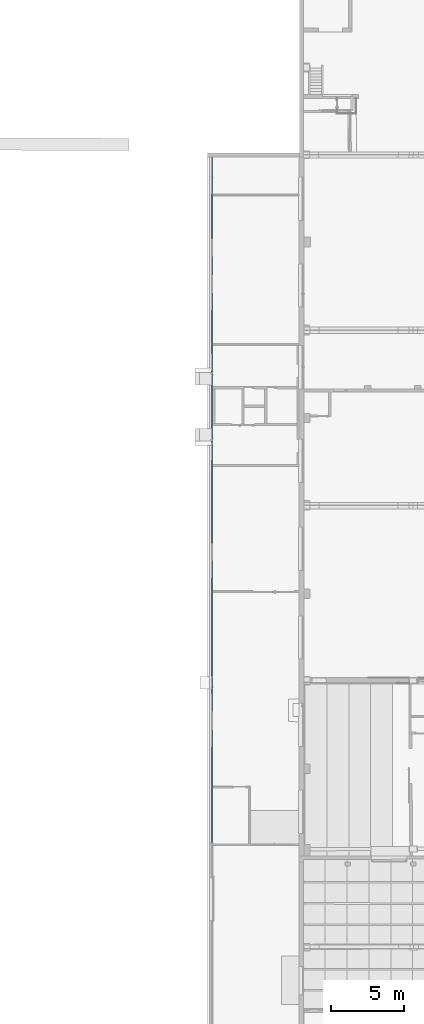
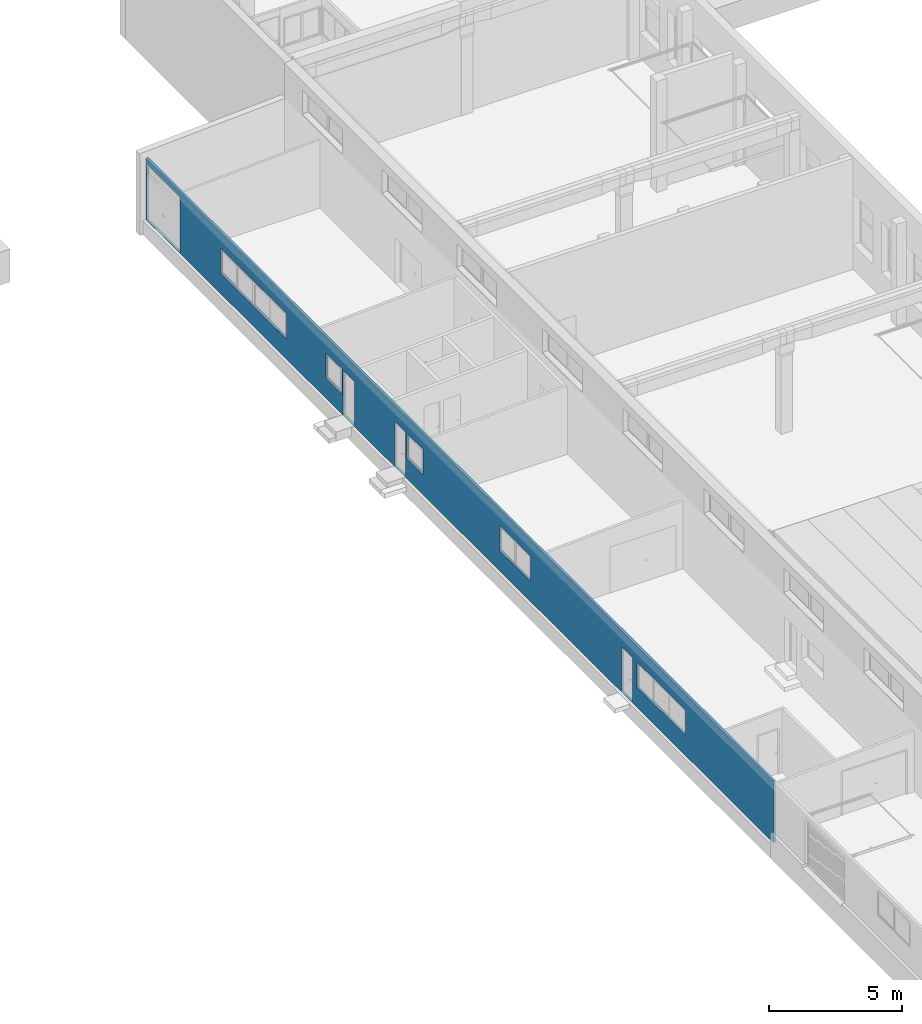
# One storey, part 101 of 301: 1 wall, 9 openings.
"""IFC2X3 building model written with IfcOpenShell, lengths in millimetres."""

from ifc_helpers import new_model, entity, si_unit, converted_unit, derived_unit, money_unit, direction, frame, origin_with_axes, place, context, subcontext, project, spatial, faceted_brep, material, type_object, element, save


model = new_model("IFC2X3")

# Units and contexts
model_context = context("Model", 3, precision=0.01, world=origin_with_axes(), true_north=direction((0.0, 1.0)))
body_context = subcontext(model_context, "Body", "Model", "MODEL_VIEW")
ifc_project = project(units=[si_unit("LENGTHUNIT", "METRE", prefix="MILLI"), si_unit("AREAUNIT", "SQUARE_METRE"), si_unit("VOLUMEUNIT", "CUBIC_METRE"), converted_unit("PLANEANGLEUNIT", "DEGREE", entity("IfcPlaneAngleMeasure", 0.0174532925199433), si_unit("PLANEANGLEUNIT", "RADIAN"), dimensions=[0, 0, 0, 0, 0, 0, 0]), money_unit("EUR"), converted_unit("TIMEUNIT", "Year", entity("IfcTimeMeasure", 31557600.0), si_unit("TIMEUNIT", "SECOND"), dimensions=[0, 0, 1, 0, 0, 0, 0]), si_unit("MASSUNIT", "GRAM", prefix="KILO"), si_unit("THERMODYNAMICTEMPERATUREUNIT", "DEGREE_CELSIUS"), si_unit("LUMINOUSINTENSITYUNIT", "LUMEN"), si_unit("ENERGYUNIT", "JOULE", prefix="MEGA"), derived_unit("THERMALCONDUCTANCEUNIT", [(si_unit("POWERUNIT", "WATT"), 1), (si_unit("LENGTHUNIT", "METRE"), -1), (si_unit("THERMODYNAMICTEMPERATUREUNIT", "KELVIN"), -1)]), derived_unit("SPECIFICHEATCAPACITYUNIT", [(si_unit("ENERGYUNIT", "JOULE"), 1), (si_unit("MASSUNIT", "GRAM", prefix="KILO"), -1), (si_unit("THERMODYNAMICTEMPERATUREUNIT", "KELVIN"), -1)]), derived_unit("MASSDENSITYUNIT", [(si_unit("MASSUNIT", "GRAM", prefix="KILO"), 1), (si_unit("VOLUMEUNIT", "CUBIC_METRE"), -1)])], contexts=[model_context])

# Site, building, storey
site_placement = place(None, frame((0.0, 0.0, 8650.0), z_axis=(0.0, 0.0, 1.0), x_axis=(1.0, 0.0, 0.0)))
site = spatial("IfcSite", under=ifc_project, at=site_placement, Name="43301:001:0844", CompositionType="ELEMENT")
building_placement = place(site_placement, origin_with_axes())
building = spatial("IfcBuilding", under=site, at=building_placement, Name="Kuressaare Ametikooli tuulikute mehaanikute õppekorpus", CompositionType="ELEMENT")
storey_placement = place(building_placement, origin_with_axes())
storey = spatial("IfcBuildingStorey", under=building, at=storey_placement, Name="1.korrus", CompositionType="ELEMENT", Elevation=0.0)

# Wall, openings
ifc_material = material(Name="GENEERILINE - KONSTRUKTRIOON")
wall_type = type_object("IfcWallType", Name="GENEERILINE - KONSTRUKTRIOON 100", PredefinedType="NOTDEFINED")
wall_placement = place(storey_placement, frame((81892.20130850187, 110588.890590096, -350.0), z_axis=(0.0, 0.0, 1.0), x_axis=(-7.655742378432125e-06, -0.9999999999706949, 0.0)))
wall = element("IfcWall", 1, at=wall_placement, inside=storey, type_object=wall_type, material=ifc_material, Name="VS-XX", context=body_context, shape_type="Brep", body=[
    faceted_brep([(269.999999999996, 0.0, 2816.26484691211), (269.999999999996, 99.99999999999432, 2821.680593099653), (269.999999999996, 99.99999999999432, 0.0), (269.999999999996, 0.0, 0.0), (47352.6273163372, 99.9999999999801, 2809.655716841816), (47352.6273163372, 0.0, 2804.239970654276), (47352.6273163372, 99.9999999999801, 0.0), (5854.778075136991, 99.9999999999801, 924.9999999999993), (10814.77807513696, 100.0000000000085, 924.9999999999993), (10814.77807513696, 100.0000000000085, 2075.0), (5854.778075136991, 99.9999999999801, 2075.0), (13763.52836301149, 99.99999999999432, 2075.0), (13763.52836301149, 99.99999999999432, 924.9999999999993), (14963.52836301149, 100.0000000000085, 924.9999999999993), (14963.52836301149, 100.0000000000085, 2075.0), (21051.12921387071, 99.99999999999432, 2075.0), (19851.12921387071, 99.99999999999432, 2075.0), (19851.12921387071, 99.99999999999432, 924.9999999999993), (21051.12921387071, 99.99999999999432, 924.9999999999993), (29133.95455333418, 99.99999999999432, 924.9999999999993), (29133.95455333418, 99.99999999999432, 2075.0), (26783.95455333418, 99.99999999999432, 2075.0), (26783.95455333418, 99.99999999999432, 924.9999999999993), (37120.04927739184, 99.9999999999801, 924.9999999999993), (40770.04927739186, 99.9999999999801, 924.9999999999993), (40770.04927739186, 99.9999999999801, 2075.0), (37120.04927739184, 99.9999999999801, 2075.0), (297.2449189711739, 99.99999999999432, 2580.0), (297.2449189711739, 99.99999999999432, 19.99999999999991), (2817.24491897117, 99.99999999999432, 19.99999999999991), (2817.24491897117, 99.99999999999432, 2580.0), (15909.77920143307, 100.0000000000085, 2070.0), (15059.77920143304, 99.99999999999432, 2070.0), (15059.77920143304, 99.99999999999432, 19.99999999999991), (15909.77920143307, 100.0000000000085, 19.99999999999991), (19754.87837544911, 99.9999999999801, 19.99999999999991), (19754.87837544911, 99.9999999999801, 2070.0), (18904.8783754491, 99.99999999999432, 2070.0), (18904.8783754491, 99.99999999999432, 19.99999999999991), (35946.63936298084, 99.9999999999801, 19.99999999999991), (36796.63936298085, 99.9999999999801, 19.99999999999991), (36796.63936298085, 99.9999999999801, 2070.0), (35946.63936298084, 99.9999999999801, 2070.0), (47352.6273163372, 0.0, 0.0), (10814.77807513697, 0.0, 2075.0), (10814.77807513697, 0.0, 924.9999999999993), (5854.778075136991, 0.0, 924.9999999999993), (5854.778075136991, 0.0, 2075.0), (13763.5283630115, 0.0, 2075.0), (14963.5283630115, 0.0, 2075.0), (14963.5283630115, 0.0, 924.9999999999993), (13763.5283630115, 0.0, 924.9999999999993), (19851.12921387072, 0.0, 924.9999999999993), (19851.12921387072, 0.0, 2075.0), (21051.12921387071, 0.0, 2075.0), (21051.12921387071, 0.0, 924.9999999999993), (29133.95455333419, 0.0, 924.9999999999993), (26783.95455333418, 0.0, 924.9999999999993), (26783.95455333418, 0.0, 2075.0), (29133.95455333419, 0.0, 2075.0), (40770.04927739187, 0.0, 2075.0), (40770.04927739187, 0.0, 924.9999999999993), (37120.04927739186, 0.0, 924.9999999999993), (37120.04927739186, 0.0, 2075.0), (297.2449189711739, 0.0, 2580.0), (2817.244918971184, 0.0, 2580.0), (2817.244918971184, 0.0, 19.99999999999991), (297.2449189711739, 0.0, 19.99999999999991), (15059.77920143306, 0.0, 19.99999999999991), (15059.77920143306, 0.0, 2070.0), (15909.77920143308, 0.0, 2070.0), (15909.77920143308, 0.0, 19.99999999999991), (19754.87837544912, 0.0, 19.99999999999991), (18904.8783754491, 0.0, 19.99999999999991), (18904.8783754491, 0.0, 2070.0), (19754.87837544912, 0.0, 2070.0), (36796.63936298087, 0.0, 2070.0), (36796.63936298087, 0.0, 19.99999999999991), (35946.63936298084, 0.0, 19.99999999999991), (35946.63936298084, 0.0, 2070.0)], [[[0, 1, 2, 3]], [[4, 1, 0, 5]], [[1, 4, 6, 2], [7, 8, 9, 10], [11, 12, 13, 14], [15, 16, 17, 18], [19, 20, 21, 22], [23, 24, 25, 26], [27, 28, 29, 30], [31, 32, 33, 34], [35, 36, 37, 38], [39, 40, 41, 42]], [[2, 6, 43, 3]], [[5, 0, 3, 43], [44, 45, 46, 47], [48, 49, 50, 51], [52, 53, 54, 55], [56, 57, 58, 59], [60, 61, 62, 63], [64, 65, 66, 67], [68, 69, 70, 71], [72, 73, 74, 75], [76, 77, 78, 79]], [[4, 5, 43, 6]], [[45, 8, 7, 46]], [[44, 9, 8, 45]], [[47, 10, 9, 44]], [[46, 7, 10, 47]], [[48, 51, 12, 11]], [[51, 50, 13, 12]], [[50, 49, 14, 13]], [[49, 48, 11, 14]], [[15, 54, 53, 16]], [[16, 53, 52, 17]], [[17, 52, 55, 18]], [[18, 55, 54, 15]], [[20, 19, 56, 59]], [[21, 20, 59, 58]], [[22, 21, 58, 57]], [[19, 22, 57, 56]], [[61, 24, 23, 62]], [[60, 25, 24, 61]], [[63, 26, 25, 60]], [[62, 23, 26, 63]], [[64, 67, 28, 27]], [[67, 66, 29, 28]], [[66, 65, 30, 29]], [[65, 64, 27, 30]], [[31, 70, 69, 32]], [[32, 69, 68, 33]], [[33, 68, 71, 34]], [[34, 71, 70, 31]], [[36, 35, 72, 75]], [[37, 36, 75, 74]], [[38, 37, 74, 73]], [[35, 38, 73, 72]], [[77, 40, 39, 78]], [[76, 41, 40, 77]], [[79, 42, 41, 76]], [[78, 39, 42, 79]]]),
])
opening_1_placement = place(wall_placement, frame((8334.778075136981, 0.0, 924.9999999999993), z_axis=(0.0, 0.0, 1.0), x_axis=(1.0, 0.0, 0.0)))
element("IfcOpeningElement", 2, at=opening_1_placement, cuts=wall, Name="VA-XX", context=body_context, shape_type="Brep", body=[
    faceted_brep([(2479.999999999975, 101.3625195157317, 1150.0), (2479.999999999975, 101.3625195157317, 0.0), (-2480.000000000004, 101.3625195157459, 0.0), (-2480.000000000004, 101.3625195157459, 1150.0), (2479.999999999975, -1.362519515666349, 1150.0), (2479.999999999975, -1.362519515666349, 0.0), (-2479.99999999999, -1.36251951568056, 0.0), (-2479.99999999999, -1.36251951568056, 1150.0)], [[[0, 1, 2, 3]], [[4, 5, 1, 0]], [[5, 6, 2, 1]], [[6, 7, 3, 2]], [[7, 4, 0, 3]], [[6, 5, 4, 7]]]),
])
opening_2_placement = place(wall_placement, frame((14363.52836301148, 0.0, 924.9999999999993), z_axis=(0.0, 0.0, 1.0), x_axis=(1.0, 0.0, 0.0)))
element("IfcOpeningElement", 3, at=opening_2_placement, cuts=wall, Name="VA-XX", context=body_context, shape_type="Brep", body=[
    faceted_brep([(600.0000000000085, 101.362519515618, 1150.0), (600.0000000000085, 101.362519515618, 0.0), (-599.9999999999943, 101.362519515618, 0.0), (-599.9999999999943, 101.362519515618, 1150.0), (600.0000000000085, -1.362519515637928, 1150.0), (600.0000000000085, -1.362519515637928, 0.0), (-599.9999999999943, -1.362519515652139, 0.0), (-599.9999999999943, -1.362519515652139, 1150.0)], [[[0, 1, 2, 3]], [[4, 5, 1, 0]], [[5, 6, 2, 1]], [[6, 7, 3, 2]], [[7, 4, 0, 3]], [[6, 5, 4, 7]]]),
])
opening_3_placement = place(wall_placement, frame((20451.1292138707, 0.0, 924.9999999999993), z_axis=(0.0, 0.0, 1.0), x_axis=(1.0, 0.0, 0.0)))
element("IfcOpeningElement", 4, at=opening_3_placement, cuts=wall, Name="VA-XX", context=body_context, shape_type="Brep", body=[
    faceted_brep([(599.9999999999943, 101.3625195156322, 1150.0), (599.9999999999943, 101.3625195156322, 0.0), (-599.9999999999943, 101.3625195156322, 0.0), (-599.9999999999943, 101.3625195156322, 1150.0), (600.0000000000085, -1.362519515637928, 1150.0), (600.0000000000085, -1.362519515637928, 0.0), (-599.9999999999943, -1.362519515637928, 0.0), (-599.9999999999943, -1.362519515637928, 1150.0)], [[[0, 1, 2, 3]], [[4, 5, 1, 0]], [[5, 6, 2, 1]], [[6, 7, 3, 2]], [[7, 4, 0, 3]], [[6, 5, 4, 7]]]),
])
opening_4_placement = place(wall_placement, frame((27958.95455333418, 0.0, 924.9999999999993), z_axis=(0.0, 0.0, 1.0), x_axis=(1.0, 0.0, 0.0)))
element("IfcOpeningElement", 5, at=opening_4_placement, cuts=wall, Name="VA-XX", context=body_context, shape_type="Brep", body=[
    faceted_brep([(1174.999999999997, 101.3625195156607, 1150.0), (1174.999999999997, 101.3625195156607, 0.0), (-1175.000000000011, 101.3625195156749, 0.0), (-1175.000000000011, 101.3625195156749, 1150.0), (1174.999999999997, -1.362519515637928, 1150.0), (1174.999999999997, -1.362519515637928, 0.0), (-1174.999999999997, -1.362519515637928, 0.0), (-1174.999999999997, -1.362519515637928, 1150.0)], [[[0, 1, 2, 3]], [[4, 5, 1, 0]], [[5, 6, 2, 1]], [[6, 7, 3, 2]], [[7, 4, 0, 3]], [[6, 5, 4, 7]]]),
])
opening_5_placement = place(wall_placement, frame((38945.04927739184, 0.0, 924.9999999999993), z_axis=(0.0, 0.0, 1.0), x_axis=(1.0, 0.0, 0.0)))
element("IfcOpeningElement", 6, at=opening_5_placement, cuts=wall, Name="VA-XX", context=body_context, shape_type="Brep", body=[
    faceted_brep([(1825.000000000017, 101.3625195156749, 1150.0), (1825.000000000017, 101.3625195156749, 0.0), (-1825.000000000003, 101.3625195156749, 0.0), (-1825.000000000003, 101.3625195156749, 1150.0), (1825.000000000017, -1.362519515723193, 1150.0), (1825.000000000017, -1.362519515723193, 0.0), (-1825.000000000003, -1.362519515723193, 0.0), (-1825.000000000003, -1.362519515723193, 1150.0)], [[[0, 1, 2, 3]], [[4, 5, 1, 0]], [[5, 6, 2, 1]], [[6, 7, 3, 2]], [[7, 4, 0, 3]], [[6, 5, 4, 7]]]),
])
opening_6_placement = place(wall_placement, frame((1557.244918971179, 0.0, 19.99999999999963), z_axis=(0.0, 0.0, 1.0), x_axis=(1.0, 0.0, 0.0)))
element("IfcOpeningElement", 7, at=opening_6_placement, cuts=wall, context=body_context, shape_type="Brep", body=[
    faceted_brep([(1259.999999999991, 101.3625195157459, 2560.0), (1259.999999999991, 101.3625195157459, 0.0), (-1260.000000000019, 101.3625195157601, 0.0), (-1260.000000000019, 101.3625195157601, 2560.0), (1259.999999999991, -1.36251951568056, 2560.0), (1259.999999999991, -1.36251951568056, 0.0), (-1260.000000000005, -1.36251951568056, 0.0), (-1260.000000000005, -1.36251951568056, 2560.0)], [[[0, 1, 2, 3]], [[4, 5, 1, 0]], [[5, 6, 2, 1]], [[6, 7, 3, 2]], [[7, 4, 0, 3]], [[6, 5, 4, 7]]]),
])
opening_7_placement = place(wall_placement, frame((15484.77920143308, 0.0, 19.99999999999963), z_axis=(0.0, 0.0, 1.0), x_axis=(1.0, 0.0, 0.0)))
element("IfcOpeningElement", 8, at=opening_7_placement, cuts=wall, context=body_context, shape_type="Brep", body=[
    faceted_brep([(424.9999999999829, 101.3625195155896, 2050.0), (424.9999999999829, 101.3625195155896, 0.0), (-425.0000000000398, 101.3625195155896, 0.0), (-425.0000000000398, 101.3625195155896, 2050.0), (424.9999999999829, -1.362519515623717, 2050.0), (424.9999999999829, -1.362519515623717, 0.0), (-425.0000000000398, -1.362519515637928, 0.0), (-425.0000000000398, -1.362519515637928, 2050.0)], [[[0, 1, 2, 3]], [[4, 5, 1, 0]], [[5, 6, 2, 1]], [[6, 7, 3, 2]], [[7, 4, 0, 3]], [[6, 5, 4, 7]]]),
])
opening_8_placement = place(wall_placement, frame((19329.8783754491, 0.0, 19.99999999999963), z_axis=(0.0, 0.0, 1.0), x_axis=(1.0, 0.0, 0.0)))
element("IfcOpeningElement", 9, at=opening_8_placement, cuts=wall, context=body_context, shape_type="Brep", body=[
    faceted_brep([(425.0000000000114, 101.3625195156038, 2050.0), (425.0000000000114, 101.3625195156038, 0.0), (-425.0000000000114, 101.3625195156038, 0.0), (-425.0000000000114, 101.3625195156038, 2050.0), (425.0000000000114, -1.362519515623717, 2050.0), (425.0000000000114, -1.362519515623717, 0.0), (-424.9999999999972, -1.362519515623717, 0.0), (-424.9999999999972, -1.362519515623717, 2050.0)], [[[0, 1, 2, 3]], [[4, 5, 1, 0]], [[5, 6, 2, 1]], [[6, 7, 3, 2]], [[7, 4, 0, 3]], [[6, 5, 4, 7]]]),
])
opening_9_placement = place(wall_placement, frame((36371.63936298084, 0.0, 19.99999999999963), z_axis=(0.0, 0.0, 1.0), x_axis=(1.0, 0.0, 0.0)))
element("IfcOpeningElement", 10, at=opening_9_placement, cuts=wall, context=body_context, shape_type="Brep", body=[
    faceted_brep([(425.0000000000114, 101.362519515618, 2050.0), (425.0000000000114, 101.362519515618, 0.0), (-425.0000000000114, 101.362519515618, 0.0), (-425.0000000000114, 101.362519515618, 2050.0), (425.0000000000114, -1.362519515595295, 2050.0), (425.0000000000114, -1.362519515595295, 0.0), (-424.9999999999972, -1.362519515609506, 0.0), (-424.9999999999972, -1.362519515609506, 2050.0)], [[[0, 1, 2, 3]], [[4, 5, 1, 0]], [[5, 6, 2, 1]], [[6, 7, 3, 2]], [[7, 4, 0, 3]], [[6, 5, 4, 7]]]),
])

save(model, "model.ifc")
